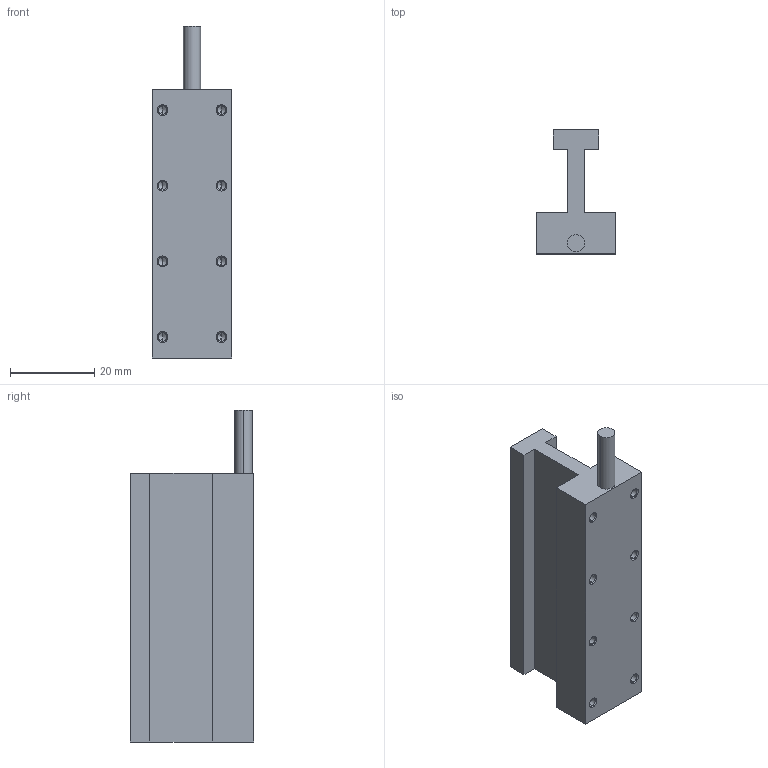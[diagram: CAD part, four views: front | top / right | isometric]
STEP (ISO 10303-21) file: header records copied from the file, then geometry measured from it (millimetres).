
FILE_DESCRIPTION (( 'STEP AP214' ), '1' );
FILE_NAME ('JKA13.STEP', '2025-09-05T12:35:40', ( '' ), ( '' ), 'SwSTEP 2.0', 'SolidWorks 2016', '' );
FILE_SCHEMA (( 'AUTOMOTIVE_DESIGN' ));
Length unit declared in the file: millimetre
Products named in the file (1): JKA13
Bounding box: 19 x 29.5 x 79 mm (x, y, z)
Volume: 19064.9 mm3; surface area: 8133.5 mm2
Topology: 1 solids, 1 shells, 65 faces, 154 edges, 84 vertices
Faces by surface type: cone 32, cylinder 18, plane 15
Entity records: 1942 total; most frequent: DIRECTION 322, CARTESIAN_POINT 288, ORIENTED_EDGE 276, EDGE_CURVE 138, AXIS2_PLACEMENT_3D 118, LINE 86, VECTOR 86, VERTEX_POINT 84
